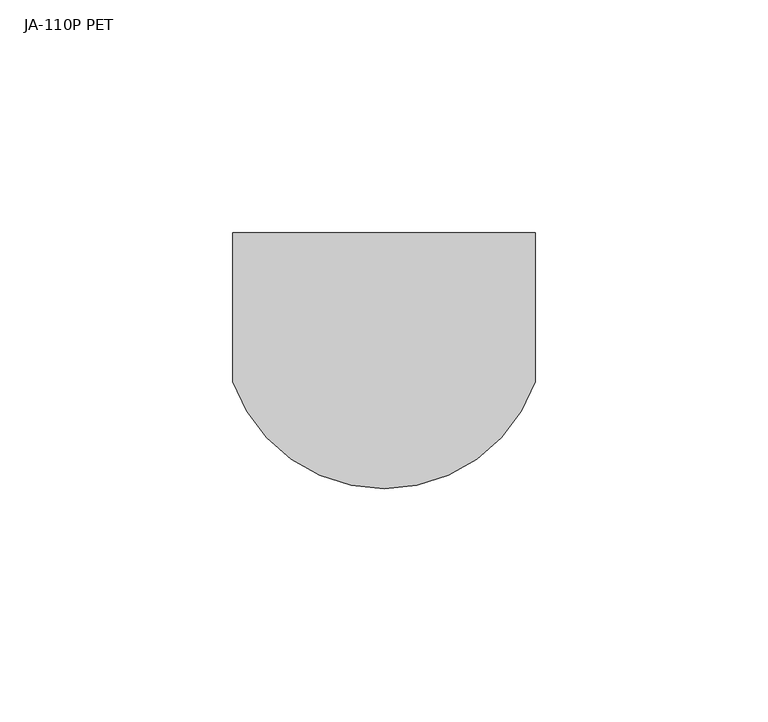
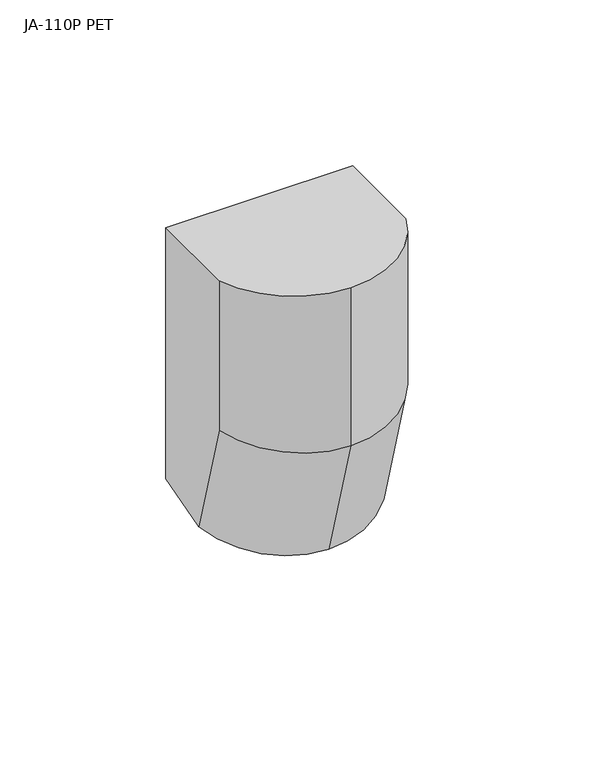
"""IFC4 building model written with IfcOpenShell, lengths in millimetres: proxy geometry, PIR detektory.CC : JA-110P PET."""

from ifc_helpers import new_model, si_unit, frame, origin, place, context, project, spatial, circle_curve, ellipse_curve, source, transform, mapped, element, save
from ifc_brep_helpers import plane_surface, cylinder_surface, advanced_brep


def ja_110p_pet_71edda3a(model_context):
    return source(origin(), model_context, "Body", "AdvancedBrep", [
        advanced_brep(
        [(32.5, 0.0, 49.0), (-32.5, 0.0, 49.0), (-32.5, -32.0, 49.0), (0.0, -55.0, 49.0), (32.5, -32.0, 49.0), (32.5, 0.0, -43.3597331), (-32.5, 0.0, -43.3597331), (-32.5, -19.6699484, -49.0), (-32.5, -32.0, -6.0), (32.5, -32.0, -6.0), (32.5, -19.6699484, -49.0), (0.0, -41.7789674, -55.3396592), (0.0, -55.0, -9.2324392)],
        [
            (0, 1),
            (1, 2),
            (2, 3, circle_curve(frame((0.0, -20.5380435, 49.0), z_axis=(0.0, 0.0, 1.0), x_axis=(1.0, 0.0, 0.0)), 34.4619565)),
            (3, 4, circle_curve(frame((0.0, -20.5380435, 49.0), z_axis=(0.0, 0.0, 1.0), x_axis=(1.0, 0.0, 0.0)), 34.4619565)),
            (4, 0),
            (0, 5),
            (5, 6),
            (6, 1),
            (6, 7),
            (7, 8),
            (8, 2),
            (4, 9),
            (9, 10),
            (10, 5),
            (10, 11, circle_curve(frame((0.0, -8.6520086, -45.8406566), z_axis=(0.0, 0.27563735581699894, -0.961261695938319), x_axis=(1.0, 0.0, 0.0)), 34.4619565)),
            (11, 7, circle_curve(frame((0.0, -8.6520086, -45.8406566), z_axis=(0.0, 0.27563735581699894, -0.961261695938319), x_axis=(1.0, 0.0, 0.0)), 34.4619565)),
            (8, 12, ellipse_curve(frame((0.0, -20.5380435, -4.3891271), z_axis=(0.0, -0.13917310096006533, 0.9902680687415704), x_axis=(0.0, 0.9902680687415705, 0.1391731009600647)), 34.8006339, 34.4619565)),
            (12, 3),
            (12, 9, ellipse_curve(frame((0.0, -20.5380435, -4.3891271), z_axis=(0.0, -0.13917310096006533, 0.9902680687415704), x_axis=(0.0, 0.9902680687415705, 0.1391731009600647)), 34.8006339, 34.4619565)),
            (11, 12),
        ],
        [
            plane_surface(frame((0.0, -32.0, 49.0), z_axis=(0.0, 0.0, 1.0), x_axis=(1.0, 0.0, 0.0))),
            plane_surface(frame((32.5, 0.0, 49.0), z_axis=(0.0, 1.0, 0.0), x_axis=(0.0, 0.0, -1.0))),
            plane_surface(frame((-32.5, 0.0, 49.0), z_axis=(-1.0, 0.0, 0.0), x_axis=(0.0, 0.0, -1.0))),
            plane_surface(frame((32.5, -32.0, 49.0), z_axis=(1.0, 0.0, 0.0), x_axis=(0.0, 0.0, -1.0))),
            plane_surface(frame((0.0, -19.6699484, -49.0), z_axis=(0.0, 0.27563735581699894, -0.961261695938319), x_axis=(1.0, 0.0, 0.0))),
            cylinder_surface(frame((0.0, -20.5380435, 49.0), z_axis=(0.0, 0.0, 1.0), x_axis=(1.0, 0.0, 0.0)), 34.4619565),
            cylinder_surface(frame((0.0, -20.9820602, -2.8406566), z_axis=(0.0, -0.27563735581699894, 0.961261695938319), x_axis=(1.0, 0.0, 0.0)), 34.4619565),
        ],
        [
            (0, [[1, 2, 3, 4, 5]]),
            (1, [[-1, 6, 7, 8]]),
            (2, [[-2, -8, 9, 10, 11]]),
            (3, [[-6, -5, 12, 13, 14]]),
            (4, [[15, 16, -9, -7, -14]]),
            (5, [[-3, -11, 17, 18]]),
            (5, [[-4, -18, 19, -12]]),
            (6, [[-10, -16, 20, -17]]),
            (6, [[-13, -19, -20, -15]]),
        ],
    ),
    ])


if __name__ == "__main__":
    model = new_model("IFC4")
    model_context = context("Model", 3, world=origin())
    ifc_project = project(units=[si_unit("LENGTHUNIT", "METRE", prefix="MILLI")], contexts=[model_context])
    site = spatial("IfcSite", under=ifc_project)
    building = spatial("IfcBuilding", under=site)
    placement = place(None, origin())
    ja_110p_pet_shape = ja_110p_pet_71edda3a(model_context)
    element("IfcBuildingElementProxy", 1, Name="PIR detektory.CC : JA-110P PET", ObjectType="PIR detektory.CC : JA-110P PET", at=placement, inside=building, context=model_context, shape_type="MappedRepresentation", body=[
        mapped(ja_110p_pet_shape, transform((0.0, 0.0, 0.0), x_axis=(1.0, 0.0, 0.0), y_axis=(0.0, 1.0, 0.0), z_axis=(0.0, 0.0, 1.0))),
    ])
    save(model, "model.ifc")
